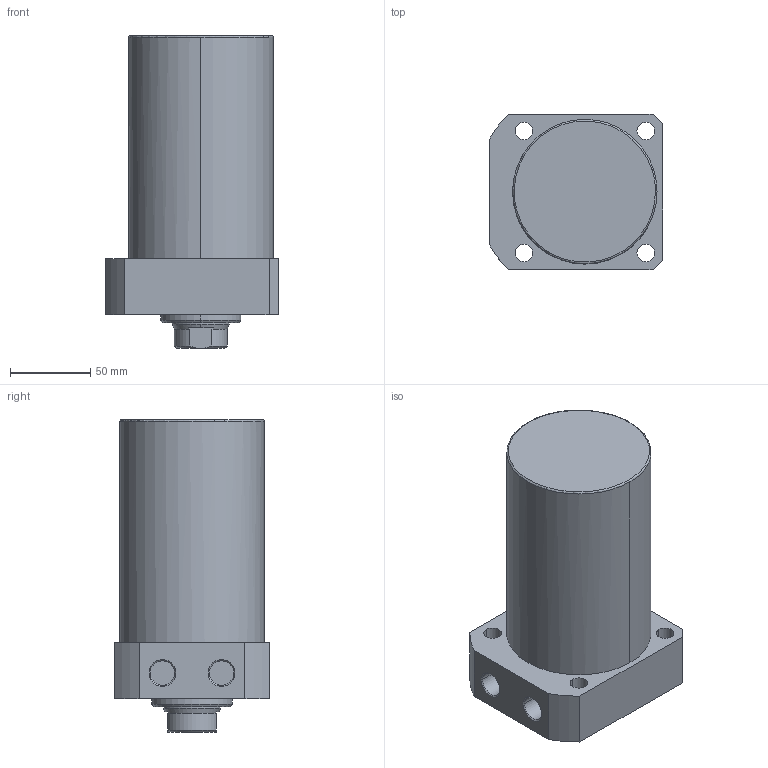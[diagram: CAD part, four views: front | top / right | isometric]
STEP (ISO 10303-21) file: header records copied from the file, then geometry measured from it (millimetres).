
FILE_DESCRIPTION((' '),'2;1');
FILE_NAME( 'TLLR-090CA-095.STEP.stp', '2025-10-24T16:35:17', (' '), ('--- Datakit www.datakit.com---'), ' Datakit CrossCadWare V2024.1 Dec 21 2023', 'Mastercam 2025', ' ');
FILE_SCHEMA(('AUTOMOTIVE_DESIGN { 1 0 10303 214 1 1 1 1 }'));
Length unit declared in the file: millimetre
Products named in the file (1): TLLR-090CA-095
Bounding box: 108 x 97 x 195 mm (x, y, z)
Volume: 1233185.2 mm3; surface area: 84388.8 mm2
Topology: 1 solids, 1 shells, 63 faces, 177 edges, 122 vertices
Faces by surface type: cylinder 28, plane 19, cone 14, torus 2
Entity records: 2172 total; most frequent: CARTESIAN_POINT 409, DIRECTION 400, ORIENTED_EDGE 350, EDGE_CURVE 175, AXIS2_PLACEMENT_3D 169, VERTEX_POINT 122, CIRCLE 105, EDGE_LOOP 79
